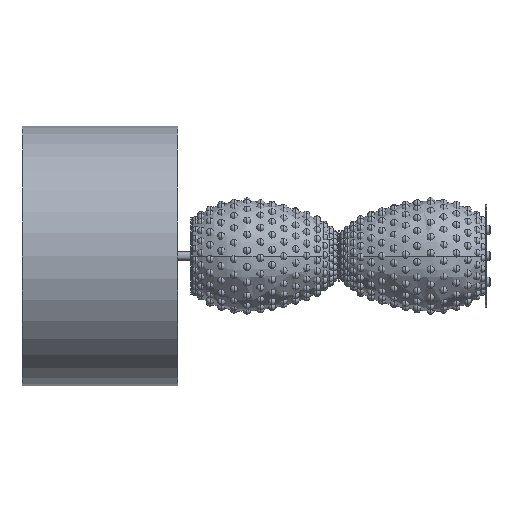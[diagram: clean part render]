
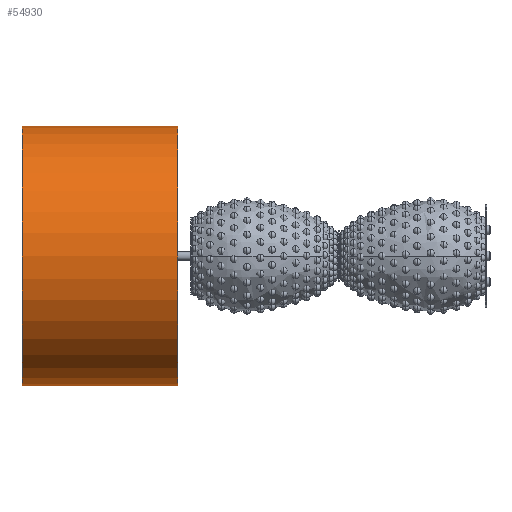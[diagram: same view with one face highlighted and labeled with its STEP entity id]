
A CAD part, left-side view. The second image highlights one B-rep face of the part: STEP entity #54930.
In plain terms, the highlighted cylindrical face has radius 200 mm (diameter 400 mm), a partial arc.
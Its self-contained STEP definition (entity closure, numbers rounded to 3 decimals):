
#309 = FACE_OUTER_BOUND ( 'NONE', #55588, .T. ) ;
#1206 = DIRECTION ( 'NONE',  ( 0., 0., -1. ) ) ;
#2430 = CIRCLE ( 'NONE', #56196, 200. ) ;
#2629 = DIRECTION ( 'NONE',  ( 0., 0., -1. ) ) ;
#5040 = AXIS2_PLACEMENT_3D ( 'NONE', #31986, #44139, #52899 ) ;
#5419 = LINE ( 'NONE', #6915, #24023 ) ;
#6915 = CARTESIAN_POINT ( 'NONE',  ( 108.356, 123.71, 427.599 ) ) ;
#8109 = ORIENTED_EDGE ( 'NONE', *, *, #51365, .F. ) ;
#9265 = CIRCLE ( 'NONE', #5040, 200. ) ;
#9900 = VERTEX_POINT ( 'NONE', #27379 ) ;
#12995 = ORIENTED_EDGE ( 'NONE', *, *, #14188, .T. ) ;
#14188 = EDGE_CURVE ( 'NONE', #9900, #42812, #9265, .T. ) ;
#17648 = VECTOR ( 'NONE', #36896, 1000. ) ;
#18113 = CARTESIAN_POINT ( 'NONE',  ( 108.356, 145.71, 427.599 ) ) ;
#22354 = CYLINDRICAL_SURFACE ( 'NONE', #40287, 200. ) ;
#24023 = VECTOR ( 'NONE', #42949, 1000. ) ;
#24891 = VERTEX_POINT ( 'NONE', #18113 ) ;
#27379 = CARTESIAN_POINT ( 'NONE',  ( 108.356, 385.71, 427.599 ) ) ;
#27584 = DIRECTION ( 'NONE',  ( 0., -1., 0. ) ) ;
#28802 = CARTESIAN_POINT ( 'NONE',  ( 108.356, 123.71, 227.599 ) ) ;
#28929 = ORIENTED_EDGE ( 'NONE', *, *, #40198, .F. ) ;
#29001 = DIRECTION ( 'NONE',  ( 0., -1., 0. ) ) ;
#29978 = VERTEX_POINT ( 'NONE', #31206 ) ;
#31206 = CARTESIAN_POINT ( 'NONE',  ( 108.356, 145.71, 27.599 ) ) ;
#31986 = CARTESIAN_POINT ( 'NONE',  ( 108.356, 385.71, 227.599 ) ) ;
#33353 = CARTESIAN_POINT ( 'NONE',  ( 108.356, 145.71, 227.599 ) ) ;
#36896 = DIRECTION ( 'NONE',  ( 0., -1., 0. ) ) ;
#37001 = CARTESIAN_POINT ( 'NONE',  ( 108.356, 385.71, 27.599 ) ) ;
#39716 = EDGE_CURVE ( 'NONE', #42812, #29978, #47889, .T. ) ;
#40198 = EDGE_CURVE ( 'NONE', #24891, #29978, #2430, .T. ) ;
#40287 = AXIS2_PLACEMENT_3D ( 'NONE', #28802, #29001, #2629 ) ;
#42812 = VERTEX_POINT ( 'NONE', #37001 ) ;
#42949 = DIRECTION ( 'NONE',  ( 0., -1., 0. ) ) ;
#44139 = DIRECTION ( 'NONE',  ( 0., -1., 0. ) ) ;
#47889 = LINE ( 'NONE', #55125, #17648 ) ;
#49995 = ORIENTED_EDGE ( 'NONE', *, *, #39716, .T. ) ;
#51365 = EDGE_CURVE ( 'NONE', #9900, #24891, #5419, .T. ) ;
#52899 = DIRECTION ( 'NONE',  ( 0., 0., -1. ) ) ;
#54930 = ADVANCED_FACE ( 'NONE', ( #309 ), #22354, .T. ) ;
#55125 = CARTESIAN_POINT ( 'NONE',  ( 108.356, 123.71, 27.599 ) ) ;
#55588 = EDGE_LOOP ( 'NONE', ( #8109, #12995, #49995, #28929 ) ) ;
#56196 = AXIS2_PLACEMENT_3D ( 'NONE', #33353, #27584, #1206 ) ;
